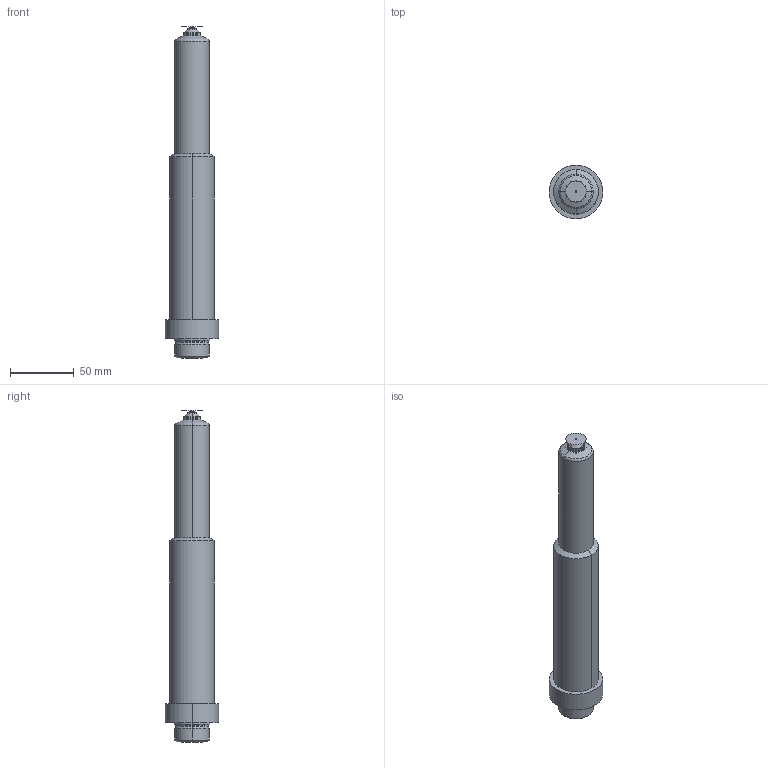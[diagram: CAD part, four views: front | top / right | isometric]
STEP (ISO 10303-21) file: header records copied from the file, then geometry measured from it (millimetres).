
FILE_DESCRIPTION (( 'STEP AP214' ), '1' );
FILE_NAME ('09EX12-03-245-TTW.step', '2023-04-19T08:36:32', ( '' ), ( '' ), 'SwSTEP 2.0', 'SolidWorks 2018', '' );
FILE_SCHEMA (( 'AUTOMOTIVE_DESIGN' ));
Length unit declared in the file: millimetre
Products named in the file (1): 09EX12-03-245-TTW
Bounding box: 42 x 42 x 260 mm (x, y, z)
Surface area: 90868.6 mm2 (no closed solid volume)
Topology: 0 solids, 5 shells, 529 faces, 1345 edges, 831 vertices
Faces by surface type: cylinder 211, plane 159, torus 83, cone 64, bspline 6, sphere 6
Entity records: 25861 total; most frequent: CARTESIAN_POINT 6990, DIRECTION 2887, ORIENTED_EDGE 2680, EDGE_CURVE 1341, AXIS2_PLACEMENT_3D 1150, VERTEX_POINT 829, CIRCLE 626, VECTOR 587
